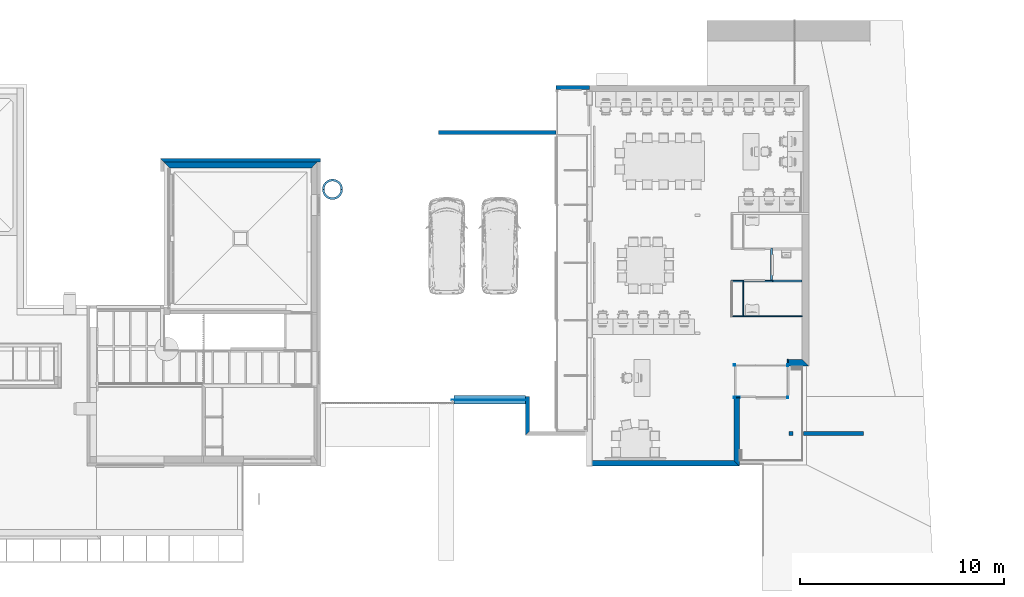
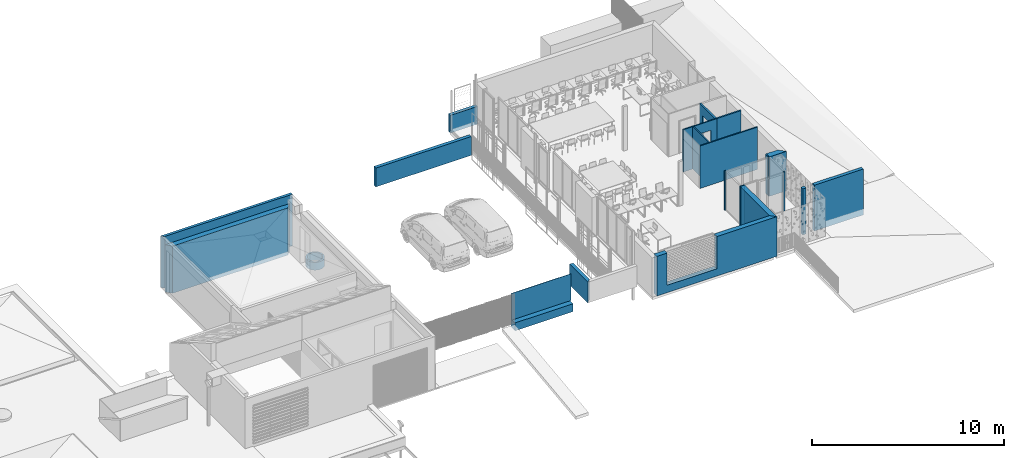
# One storey, part 17 of 51: 25 walls, 3 openings.
"""IFC2X3 building model written with IfcOpenShell, lengths in metres."""

from ifc_helpers import new_model, entity, si_unit, converted_unit, derived_unit, direction, frame, frame_2d, origin, origin_2d_with_axis, place, context, subcontext, project, spatial, polyline, circle_curve, parameter, trimmed, segment, composite_curve, rectangle, outline, extrude, material, layer, layer_set, layer_usage, type_object, element, save


model = new_model("IFC2X3")

# Units and contexts
model_context = context("Model", 3, precision=1e-05, world=origin(), true_north=direction((6.123031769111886e-17, 1.0)))
body_context = subcontext(model_context, "Body", "Model", "MODEL_VIEW")
ifc_project = project(units=[si_unit("LENGTHUNIT", "METRE"), si_unit("AREAUNIT", "SQUARE_METRE"), si_unit("VOLUMEUNIT", "CUBIC_METRE"), converted_unit("PLANEANGLEUNIT", "DEGREE", entity("IfcRatioMeasure", 0.017453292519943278), si_unit("PLANEANGLEUNIT", "RADIAN"), dimensions=[0, 0, 0, 0, 0, 0, 0]), si_unit("MASSUNIT", "GRAM", prefix="KILO"), derived_unit("MASSDENSITYUNIT", [(si_unit("MASSUNIT", "GRAM", prefix="KILO"), 1), (si_unit("LENGTHUNIT", "METRE"), -3)]), derived_unit("MOMENTOFINERTIAUNIT", [(si_unit("LENGTHUNIT", "METRE"), 4)]), si_unit("TIMEUNIT", "SECOND"), si_unit("FREQUENCYUNIT", "HERTZ"), si_unit("THERMODYNAMICTEMPERATUREUNIT", "DEGREE_CELSIUS"), derived_unit("THERMALTRANSMITTANCEUNIT", [(si_unit("MASSUNIT", "GRAM", prefix="KILO"), 1), (si_unit("THERMODYNAMICTEMPERATUREUNIT", "KELVIN"), -1), (si_unit("TIMEUNIT", "SECOND"), -3)]), derived_unit("THERMALCONDUCTANCEUNIT", [(si_unit("MASSUNIT", "GRAM", prefix="KILO"), 1), (si_unit("LENGTHUNIT", "METRE"), 1), (si_unit("THERMODYNAMICTEMPERATUREUNIT", "KELVIN"), -1), (si_unit("TIMEUNIT", "SECOND"), -3)]), derived_unit("VOLUMETRICFLOWRATEUNIT", [(si_unit("LENGTHUNIT", "METRE"), 3), (si_unit("TIMEUNIT", "SECOND"), -1)]), derived_unit("MASSFLOWRATEUNIT", [(si_unit("MASSUNIT", "GRAM", prefix="KILO"), 1), (si_unit("TIMEUNIT", "SECOND"), -1)]), derived_unit("ROTATIONALFREQUENCYUNIT", [(si_unit("TIMEUNIT", "SECOND"), -1)]), si_unit("ELECTRICCURRENTUNIT", "AMPERE"), si_unit("ELECTRICVOLTAGEUNIT", "VOLT"), si_unit("POWERUNIT", "WATT"), si_unit("FORCEUNIT", "NEWTON", prefix="KILO"), si_unit("ILLUMINANCEUNIT", "LUX"), si_unit("LUMINOUSFLUXUNIT", "LUMEN"), si_unit("LUMINOUSINTENSITYUNIT", "CANDELA"), derived_unit("USERDEFINED", [(si_unit("MASSUNIT", "GRAM", prefix="KILO"), -1), (si_unit("LENGTHUNIT", "METRE"), -2), (si_unit("TIMEUNIT", "SECOND"), 3), (si_unit("LUMINOUSFLUXUNIT", "LUMEN"), 1)]), derived_unit("USERDEFINED", [(si_unit("MASSUNIT", "GRAM", prefix="KILO"), 1), (si_unit("LENGTHUNIT", "METRE"), 3), (si_unit("TIMEUNIT", "SECOND"), -3), (si_unit("ELECTRICCURRENTUNIT", "AMPERE"), -2)]), derived_unit("USERDEFINED", [(si_unit("LENGTHUNIT", "METRE"), 2), (si_unit("TIMEUNIT", "SECOND"), -2)]), derived_unit("SOUNDPOWERUNIT", [(si_unit("MASSUNIT", "GRAM", prefix="KILO"), 1), (si_unit("LENGTHUNIT", "METRE"), 2), (si_unit("TIMEUNIT", "SECOND"), -3)]), derived_unit("SOUNDPRESSUREUNIT", [(si_unit("MASSUNIT", "GRAM", prefix="KILO"), 1), (si_unit("LENGTHUNIT", "METRE"), -1), (si_unit("TIMEUNIT", "SECOND"), -2)]), derived_unit("LINEARVELOCITYUNIT", [(si_unit("LENGTHUNIT", "METRE"), 1), (si_unit("TIMEUNIT", "SECOND"), -1)]), si_unit("PRESSUREUNIT", "PASCAL"), derived_unit("USERDEFINED", [(si_unit("LENGTHUNIT", "METRE"), -2), (si_unit("MASSUNIT", "GRAM", prefix="KILO"), 1), (si_unit("TIMEUNIT", "SECOND"), -2)]), derived_unit("LINEARFORCEUNIT", [(si_unit("MASSUNIT", "GRAM", prefix="KILO"), 1), (si_unit("LENGTHUNIT", "METRE"), 1), (si_unit("TIMEUNIT", "SECOND"), -2), (si_unit("LENGTHUNIT", "METRE"), -1)]), derived_unit("PLANARFORCEUNIT", [(si_unit("MASSUNIT", "GRAM", prefix="KILO"), 1), (si_unit("LENGTHUNIT", "METRE"), 1), (si_unit("TIMEUNIT", "SECOND"), -2), (si_unit("LENGTHUNIT", "METRE"), -2)]), derived_unit("SPECIFICHEATCAPACITYUNIT", [(si_unit("LENGTHUNIT", "METRE"), 2), (si_unit("TIMEUNIT", "SECOND"), -2), (si_unit("THERMODYNAMICTEMPERATUREUNIT", "KELVIN"), -1)]), derived_unit("VAPORPERMEABILITYUNIT", [(si_unit("TIMEUNIT", "SECOND"), 1), (si_unit("LENGTHUNIT", "METRE"), -1)]), derived_unit("DYNAMICVISCOSITYUNIT", [(si_unit("MASSUNIT", "GRAM", prefix="KILO"), 1), (si_unit("LENGTHUNIT", "METRE"), -1), (si_unit("TIMEUNIT", "SECOND"), -1)]), derived_unit("THERMALEXPANSIONCOEFFICIENTUNIT", [(si_unit("THERMODYNAMICTEMPERATUREUNIT", "KELVIN"), -1)])], contexts=[model_context])

# Site, building, storey
site_placement = place(None, origin())
site = spatial("IfcSite", under=ifc_project, at=site_placement, Name="Default", CompositionType="ELEMENT")
building_placement = place(site_placement, origin())
building = spatial("IfcBuilding", under=site, at=building_placement, CompositionType="ELEMENT")
storey_placement = place(building_placement, frame((0.0, 0.0, 3.06)))
storey = spatial("IfcBuildingStorey", under=building, at=storey_placement, Name="ÉTAGE", CompositionType="ELEMENT", Elevation=3.06)

# Walls
ifc_material_1 = material(Name="Appareillage - Pierre taillé")
ifc_layer_1 = layer(ifc_material_1, 0.31)
ifc_layer_set_1 = layer_set([ifc_layer_1], Name="Mur de base:Struct. - Pierre 310")
ifc_layer_usage_1 = layer_usage(ifc_layer_set_1, "AXIS2", "NEGATIVE", 0.155)
wall_type_1 = type_object("IfcWallType", Name="Mur de base:Struct. - Pierre 310", PredefinedType="STANDARD", material=ifc_layer_set_1)
wall_1_placement = place(storey_placement, frame((120.680752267, 22.342209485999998, -0.24000000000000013)))
element("IfcWallStandardCase", 1, at=wall_1_placement, inside=storey, type_object=wall_type_1, material=ifc_layer_usage_1, Name="MurExt-002", ObjectType="Mur de base:Struct. - Pierre 310", context=body_context, shape_type="SweptSolid", body=[
    extrude(outline(polyline([(7.230000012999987, -0.15499999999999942), (7.52000001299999, 0.15499999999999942), (0.0, 0.15499999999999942), (0.3000000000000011, -0.15499999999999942), (7.230000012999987, -0.15499999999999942)])), origin(), (0.0, 0.0, 1.0), 3.0000000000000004),
])
ifc_material_2 = material(Name="Enduit - Jaune nature")
ifc_layer_2 = layer(ifc_material_2, 0.02)
ifc_material_3 = material(Name="Isolation - Fibre de verre")
ifc_layer_3 = layer(ifc_material_3, 0.14)
ifc_layer_set_2 = layer_set([ifc_layer_2, ifc_layer_3], Name="Mur de base:ABA ITE 140 + enduit 160")
ifc_layer_usage_2 = layer_usage(ifc_layer_set_2, "AXIS2", "NEGATIVE", 0.08)
wall_type_2 = type_object("IfcWallType", Name="Mur de base:ABA ITE 140 + enduit 160", PredefinedType="STANDARD", material=ifc_layer_set_2)
wall_2_placement = place(storey_placement, frame((120.52075226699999, 22.577209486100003, 0.0)))
element("IfcWallStandardCase", 2, at=wall_2_placement, inside=storey, type_object=wall_type_2, material=ifc_layer_usage_2, Name="MurExt-003", ObjectType="Mur de base:ABA ITE 140 + enduit 160", context=body_context, shape_type="SweptSolid", body=[
    extrude(outline(polyline([(7.84000001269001, -0.07999999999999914), (7.84000001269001, 0.07999999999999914), (0.0, 0.07999999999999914), (0.15999999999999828, -0.07999999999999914), (7.84000001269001, -0.07999999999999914)])), origin(), (0.0, 0.0, 1.0), 3.289999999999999),
])
ifc_material_4 = material(Name="Béton - Parpaing (Blocs)")
ifc_layer_4 = layer(ifc_material_4, 0.2)
ifc_layer_set_3 = layer_set([ifc_layer_4], Name="Mur de base:Struct. - Parpaing béton 200")
ifc_layer_usage_3 = layer_usage(ifc_layer_set_3, "AXIS2", "NEGATIVE", 0.1)
wall_type_3 = type_object("IfcWallType", Name="Mur de base:Struct. - Parpaing béton 200", PredefinedType="STANDARD", material=ifc_layer_set_3)
wall_3_placement = place(storey_placement, frame((141.54075228, 26.137235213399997, 0.9899999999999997), z_axis=(0.0, 0.0, 1.0), x_axis=(-1.0, 0.0, 0.0)))
element("IfcWallStandardCase", 3, at=wall_3_placement, inside=storey, type_object=wall_type_3, material=ifc_layer_usage_3, Name="MurExt-021", ObjectType="Mur de base:Struct. - Parpaing béton 200", context=body_context, shape_type="SweptSolid", body=[
    extrude(rectangle(XDim=1.6399998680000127, YDim=0.19999999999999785, at=frame_2d((0.8199999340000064, 0.0), x_axis=(-1.0, 0.0))), origin(), (0.0, 0.0, 1.0), 1.1199999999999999),
])
wall_4_placement = place(storey_placement, frame((151.525752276, 9.18720952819, 0.789999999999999), z_axis=(0.0, 0.0, 1.0), x_axis=(-1.0, 0.0, 0.0)))
element("IfcWallStandardCase", 4, at=wall_4_placement, inside=storey, type_object=wall_type_3, material=ifc_layer_usage_3, Name="MurExt-021", ObjectType="Mur de base:Struct. - Parpaing béton 200", context=body_context, shape_type="SweptSolid", body=[
    extrude(rectangle(XDim=0.1999999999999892, YDim=0.2, at=frame_2d((0.0999999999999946, 0.0), x_axis=(-1.0, 0.0))), origin(), (0.0, 0.0, 1.0), 2.9199999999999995),
])
wall_5_placement = place(storey_placement, frame((138.50075227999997, 9.087209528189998, 0.9899999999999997), z_axis=(0.0, 0.0, 1.0), x_axis=(0.0, 1.0, 0.0)))
element("IfcWallStandardCase", 5, at=wall_5_placement, inside=storey, type_object=wall_type_3, material=ifc_layer_usage_3, Name="MurExt-021", ObjectType="Mur de base:Struct. - Parpaing béton 200", context=body_context, shape_type="SweptSolid", body=[
    extrude(outline(polyline([(1.9000000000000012, -0.10000000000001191), (1.9000000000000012, 0.0999999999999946), (0.0, 0.0999999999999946), (0.20000000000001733, -0.10000000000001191), (1.9000000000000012, -0.10000000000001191)])), origin(), (0.0, 0.0, 1.0), 1.3199999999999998),
])
wall_6_placement = place(storey_placement, frame((139.90075236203, 23.937209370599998, 0.9099999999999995), z_axis=(0.0, 0.0, 1.0), x_axis=(-1.0, 0.0, 0.0)))
element("IfcWallStandardCase", 6, at=wall_6_placement, inside=storey, type_object=wall_type_3, material=ifc_layer_usage_3, Name="MurExt-021", ObjectType="Mur de base:Struct. - Parpaing béton 200", context=body_context, shape_type="SweptSolid", body=[
    extrude(rectangle(XDim=5.7500000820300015, YDim=0.19999999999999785, at=frame_2d((2.8750000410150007, 0.0), x_axis=(-1.0, 0.0))), origin(), (0.0, 0.0, 1.0), 1.2000000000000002),
])
wall_7_placement = place(storey_placement, frame((154.97575227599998, 9.18720952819, 0.789999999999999), z_axis=(0.0, 0.0, 1.0), x_axis=(-1.0, 0.0, 0.0)))
element("IfcWallStandardCase", 7, at=wall_7_placement, inside=storey, type_object=wall_type_3, material=ifc_layer_usage_3, Name="MurExt-021", ObjectType="Mur de base:Struct. - Parpaing béton 200", context=body_context, shape_type="SweptSolid", body=[
    extrude(rectangle(XDim=2.9499999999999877, YDim=0.2, at=frame_2d((1.4749999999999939, 0.0), x_axis=(-1.0, 0.0))), origin(), (0.0, 0.0, 1.0), 2.9199999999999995),
])
ifc_layer_5 = layer(ifc_material_1, 0.1)
ifc_layer_set_4 = layer_set([ifc_layer_5], Name="Mur de base:Struct. - Pierre 100")
ifc_layer_usage_4 = layer_usage(ifc_layer_set_4, "AXIS2", "POSITIVE", -0.05)
wall_type_4 = type_object("IfcWallType", Name="Mur de base:Struct. - Pierre 100", PredefinedType="STANDARD", material=ifc_layer_set_4)
wall_8_placement = place(storey_placement, frame((128.50075227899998, 21.152209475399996, -0.5900000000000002)))
element("IfcWallStandardCase", 8, at=wall_8_placement, inside=storey, type_object=wall_type_4, material=ifc_layer_usage_4, Name="MurExt-003", ObjectType="Mur de base:Struct. - Pierre 100", context=body_context, shape_type="SweptSolid", body=[
    extrude(outline(composite_curve([segment(trimmed(circle_curve(frame_2d((0.4500000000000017, 0.0), x_axis=(1.0, 0.0)), 0.49999999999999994), [parameter(0.0)], [parameter(180.00000000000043)], True, "PARAMETER"), True, "CONTINUOUS"), segment(polyline([(-0.050000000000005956, 0.0), (0.050000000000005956, 0.0)]), True, "CONTINUOUS"), segment(trimmed(circle_curve(frame_2d((0.4500000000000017, 0.0), x_axis=(1.0, 0.0)), 0.39999999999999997), [parameter(0.0)], [parameter(180.00000000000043)], True, "PARAMETER"), False, "CONTINUOUS"), segment(polyline([(0.8499999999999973, 0.0), (0.9500000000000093, 0.0)]), True, "CONTINUOUS")], self_intersect=False)), origin(), (0.0, 0.0, 1.0), 0.5),
])
wall_9_placement = place(storey_placement, frame((129.400752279, 21.152209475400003, -0.5900000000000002), z_axis=(0.0, 0.0, 1.0), x_axis=(-1.0, 0.0, 0.0)))
element("IfcWallStandardCase", 9, at=wall_9_placement, inside=storey, type_object=wall_type_4, material=ifc_layer_usage_4, Name="MurExt-004", ObjectType="Mur de base:Struct. - Pierre 100", context=body_context, shape_type="SweptSolid", body=[
    extrude(outline(composite_curve([segment(trimmed(circle_curve(frame_2d((0.4500000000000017, 0.0), x_axis=(1.0, 0.0)), 0.49999999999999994), [parameter(0.0)], [parameter(180.00000000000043)], True, "PARAMETER"), True, "CONTINUOUS"), segment(polyline([(-0.050000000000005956, 0.0), (0.050000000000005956, 0.0)]), True, "CONTINUOUS"), segment(trimmed(circle_curve(frame_2d((0.4500000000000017, 0.0), x_axis=(1.0, 0.0)), 0.39999999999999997), [parameter(0.0)], [parameter(180.00000000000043)], True, "PARAMETER"), False, "CONTINUOUS"), segment(polyline([(0.8499999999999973, 0.0), (0.9500000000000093, 0.0)]), True, "CONTINUOUS")], self_intersect=False)), origin(), (0.0, 0.0, 1.0), 0.5),
])
ifc_material_5 = material(Name="Plâtre - Plaques de plâtre")
ifc_layer_6 = layer(ifc_material_5, 0.013)
ifc_layer_7 = layer(ifc_material_3, 0.044)
ifc_layer_8 = layer(ifc_material_5, 0.013)
ifc_layer_set_5 = layer_set([ifc_layer_6, ifc_layer_7, ifc_layer_8], Name="Mur de base:ABA cloison 7cm 70")
ifc_layer_usage_5 = layer_usage(ifc_layer_set_5, "AXIS2", "NEGATIVE", 0.034999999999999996)
wall_type_5 = type_object("IfcWallType", Name="Mur de base:ABA cloison 7cm 70", PredefinedType="STANDARD", material=ifc_layer_set_5)
wall_10_placement = place(storey_placement, frame((151.97075228, 14.9322094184, 1.21), z_axis=(0.0, 0.0, 1.0), x_axis=(-1.0, 0.0, 0.0)))
element("IfcWallStandardCase", 10, at=wall_10_placement, inside=storey, type_object=wall_type_5, material=ifc_layer_usage_5, Name="MurExt-012", ObjectType="Mur de base:ABA cloison 7cm 70", context=body_context, shape_type="SweptSolid", body=[
    extrude(outline(polyline([(3.4300000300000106, -0.03499999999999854), (3.4800000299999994, 0.035000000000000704), (0.0, 0.035000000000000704), (0.0, -0.03499999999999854), (2.850000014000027, -0.03499999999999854), (2.9200000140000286, -0.03499999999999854), (3.4300000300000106, -0.03499999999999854)])), origin(), (0.0, 0.0, 1.0), 2.7000000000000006),
])
wall_11_placement = place(storey_placement, frame((149.08575226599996, 14.967209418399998, 1.21), z_axis=(0.0, 0.0, 1.0), x_axis=(0.0, 1.0, 0.0)))
element("IfcWallStandardCase", 11, at=wall_11_placement, inside=storey, type_object=wall_type_5, material=ifc_layer_usage_5, Name="MurExt-013", ObjectType="Mur de base:ABA cloison 7cm 70", context=body_context, shape_type="SweptSolid", body=[
    extrude(rectangle(XDim=1.6500000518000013, YDim=0.06999999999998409, at=frame_2d((0.8250000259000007, 0.0), x_axis=(-1.0, 0.0))), origin(), (0.0, 0.0, 1.0), 2.7000000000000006),
])

# Wall, opening
wall_12_placement = place(storey_placement, frame((150.52075226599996, 16.6522094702, 1.21), z_axis=(0.0, 0.0, 1.0), x_axis=(-1.0, 0.0, 0.0)))
wall_12 = element("IfcWallStandardCase", 12, at=wall_12_placement, inside=storey, type_object=wall_type_5, material=ifc_layer_usage_5, Name="MurExt-014", ObjectType="Mur de base:ABA cloison 7cm 70", context=body_context, shape_type="SweptSolid", body=[
    extrude(rectangle(XDim=2.030000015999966, YDim=0.07000000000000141, at=frame_2d((1.015000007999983, 0.0), x_axis=(-1.0, 0.0))), origin(), (0.0, 0.0, 1.0), 2.7000000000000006),
])
opening_1_placement = place(wall_12_placement, frame((150.52075226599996, 16.6522094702, -1.2099999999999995), z_axis=(0.0, 0.0, 1.0), x_axis=(-1.0, 0.0, 0.0)))
element("IfcOpeningElement", 13, at=opening_1_placement, cuts=wall_12, Name="MurExt-014", ObjectType="Opening", context=body_context, shape_type="SweptSolid", body=[
    extrude(rectangle(XDim=2.089999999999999, YDim=1.0300000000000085, at=origin_2d_with_axis()), frame((149.63575226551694, 16.7236094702, 2.254999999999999), z_axis=(0.0, -1.0, 0.0), x_axis=(0.0, 0.0, 1.0)), (0.0, 0.0, 1.0), 0.14279999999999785),
])

# Walls
wall_13_placement = place(storey_placement, frame((148.69075228, 10.9522095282, 1.2099999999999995)))
element("IfcWallStandardCase", 14, at=wall_13_placement, inside=storey, type_object=wall_type_5, material=ifc_layer_usage_5, Name="MurExt-018", ObjectType="Mur de base:ABA cloison 7cm 70", context=body_context, shape_type="SweptSolid", body=[
    extrude(rectangle(XDim=0.21000003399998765, YDim=0.07000000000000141, at=frame_2d((0.10500001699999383, 0.0), x_axis=(-1.0, 0.0))), origin(), (0.0, 0.0, 1.0), 2.499999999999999),
])
ifc_material_6 = material(Name="Métal - Fer")
ifc_layer_9 = layer(ifc_material_6, 0.037)
ifc_material_7 = material(Name="Air - Vide d'air")
ifc_layer_10 = layer(ifc_material_7, 0.035)
ifc_layer_11 = layer(ifc_material_3, 0.04)
ifc_layer_12 = layer(ifc_material_3, 0.145)
ifc_material_8 = material(Name="Bois - Panneaux de particules")
ifc_layer_13 = layer(ifc_material_8, 0.012)
ifc_layer_14 = layer(ifc_material_7, 0.048)
ifc_layer_15 = layer(ifc_material_5, 0.013)
ifc_layer_set_6 = layer_set([ifc_layer_9, ifc_layer_10, ifc_layer_11, ifc_layer_12, ifc_layer_13, ifc_layer_14, ifc_layer_15], Name="Mur de base:ABA MOB ITE bardage 330")
ifc_layer_usage_6 = layer_usage(ifc_layer_set_6, "AXIS2", "NEGATIVE", 0.165)
wall_type_6 = type_object("IfcWallType", Name="Mur de base:ABA MOB ITE bardage 330", PredefinedType="STANDARD", material=ifc_layer_set_6)
wall_14_placement = place(storey_placement, frame((152.30075228, 12.6522094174, 1.189999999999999), z_axis=(0.0, 0.0, 1.0), x_axis=(-1.0, 0.0, 0.0)))
element("IfcWallStandardCase", 15, at=wall_14_placement, inside=storey, type_object=wall_type_6, material=ifc_layer_usage_6, Name="MurExt-020", ObjectType="Mur de base:ABA MOB ITE bardage 330", context=body_context, shape_type="SweptSolid", body=[
    extrude(outline(polyline([(1.0, -0.16500000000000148), (1.0, 0.16499999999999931), (0.0, 0.16499999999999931), (0.3299999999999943, -0.16500000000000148), (1.0, -0.16500000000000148)])), origin(), (0.0, 0.0, 1.0), 2.5199999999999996),
])
ifc_layer_16 = layer(ifc_material_5, 0.013)
ifc_layer_17 = layer(ifc_material_3, 0.056999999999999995)
ifc_layer_set_7 = layer_set([ifc_layer_16, ifc_layer_17], Name="Mur de base:ABA doublage 7cm 70")
ifc_layer_usage_7 = layer_usage(ifc_layer_set_7, "AXIS2", "NEGATIVE", 0.034999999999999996)
wall_type_7 = type_object("IfcWallType", Name="Mur de base:ABA doublage 7cm 70", PredefinedType="STANDARD", material=ifc_layer_set_7)
wall_15_placement = place(storey_placement, frame((151.26575228, 12.5872094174, 1.2099999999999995), z_axis=(0.0, 0.0, 1.0), x_axis=(0.0, 1.0, 0.0)))
element("IfcWallStandardCase", 16, at=wall_15_placement, inside=storey, type_object=wall_type_7, material=ifc_layer_usage_7, Name="MurExt-017", ObjectType="Mur de base:ABA doublage 7cm 70", context=body_context, shape_type="SweptSolid", body=[
    extrude(rectangle(XDim=0.23000020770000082, YDim=0.06999999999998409, at=frame_2d((0.11500010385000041, 0.0), x_axis=(-1.0, 0.0))), origin(), (0.0, 0.0, 1.0), 2.499999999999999),
])

# Wall, opening
ifc_layer_18 = layer(ifc_material_2, 0.022)
ifc_layer_19 = layer(ifc_material_3, 0.04)
ifc_layer_20 = layer(ifc_material_3, 0.145)
ifc_layer_21 = layer(ifc_material_8, 0.012)
ifc_layer_22 = layer(ifc_material_7, 0.048)
ifc_layer_23 = layer(ifc_material_5, 0.013)
ifc_layer_set_8 = layer_set([ifc_layer_18, ifc_layer_19, ifc_layer_20, ifc_layer_21, ifc_layer_22, ifc_layer_23], Name="Mur de base:ABA MOB ITE enduit 280")
ifc_layer_usage_8 = layer_usage(ifc_layer_set_8, "AXIS2", "NEGATIVE", 0.14)
wall_type_8 = type_object("IfcWallType", Name="Mur de base:ABA MOB ITE enduit 280", PredefinedType="STANDARD", material=ifc_layer_set_8)
wall_16_placement = place(storey_placement, frame((148.900752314, 7.7272094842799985, 1.189999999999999), z_axis=(0.0, 0.0, 1.0), x_axis=(-1.0, 0.0, 0.0)))
wall_16 = element("IfcWallStandardCase", 17, at=wall_16_placement, inside=storey, type_object=wall_type_8, material=ifc_layer_usage_8, Name="MurExt-018", ObjectType="Mur de base:ABA MOB ITE enduit 280", context=body_context, shape_type="SweptSolid", body=[
    extrude(outline(polyline([(7.220000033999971, -0.14000000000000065), (7.220000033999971, 0.13999999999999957), (0.0, 0.13999999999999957), (0.28000000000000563, -0.14000000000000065), (7.220000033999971, -0.14000000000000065)])), origin(), (0.0, 0.0, 1.0), 2.5199999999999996),
])
opening_2_placement = place(wall_16_placement, frame((148.900752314, 7.7272094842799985, -1.189999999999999), z_axis=(0.0, 0.0, 1.0), x_axis=(-1.0, 0.0, 0.0)))
element("IfcOpeningElement", 18, at=opening_2_placement, cuts=wall_16, Name="MurExt-018", ObjectType="Opening", context=body_context, shape_type="SweptSolid", body=[
    extrude(rectangle(XDim=2.05, YDim=2.999999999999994, at=frame_2d((0.0, -8.659739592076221e-15), x_axis=(1.0, 0.0))), frame((143.80075227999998, 8.010009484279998, 2.6849999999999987), z_axis=(0.0, -1.0, 0.0), x_axis=(0.0, 0.0, -1.0)), (0.0, 0.0, 1.0), 0.5655999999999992),
])

# Wall
wall_17_placement = place(storey_placement, frame((148.76075231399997, 10.9172095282, 1.189999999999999), z_axis=(0.0, 0.0, 1.0), x_axis=(0.0, -1.0, 0.0)))
element("IfcWallStandardCase", 19, at=wall_17_placement, inside=storey, type_object=wall_type_8, material=ifc_layer_usage_8, Name="MurExt-019", ObjectType="Mur de base:ABA MOB ITE enduit 280", context=body_context, shape_type="SweptSolid", body=[
    extrude(outline(polyline([(3.050000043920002, -0.14000000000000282), (3.3300000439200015, 0.14000000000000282), (0.0, 0.14000000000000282), (0.0, -0.14000000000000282), (3.050000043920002, -0.14000000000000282)])), origin(), (0.0, 0.0, 1.0), 2.5199999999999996),
])

# Wall, opening
ifc_layer_24 = layer(ifc_material_5, 0.013)
ifc_layer_25 = layer(ifc_material_5, 0.013)
ifc_layer_26 = layer(ifc_material_3, 0.048)
ifc_layer_27 = layer(ifc_material_5, 0.013)
ifc_layer_28 = layer(ifc_material_5, 0.013)
ifc_layer_set_9 = layer_set([ifc_layer_24, ifc_layer_25, ifc_layer_26, ifc_layer_27, ifc_layer_28], Name="Mur de base:ABA cloison 10cm 100")
ifc_layer_usage_9 = layer_usage(ifc_layer_set_9, "AXIS2", "NEGATIVE", 0.05)
wall_type_9 = type_object("IfcWallType", Name="Mur de base:ABA cloison 10cm 100", PredefinedType="STANDARD", material=ifc_layer_set_9)
wall_18_placement = place(storey_placement, frame((150.47075226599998, 16.6872094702, 1.21), z_axis=(0.0, 0.0, 1.0), x_axis=(0.0, 1.0, 0.0)))
wall_18 = element("IfcWallStandardCase", 20, at=wall_18_placement, inside=storey, type_object=wall_type_9, material=ifc_layer_usage_9, Name="MurExt-015", ObjectType="Mur de base:ABA cloison 10cm 100", context=body_context, shape_type="SweptSolid", body=[
    extrude(rectangle(XDim=1.5899999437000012, YDim=0.10000000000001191, at=frame_2d((0.7949999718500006, 0.0), x_axis=(-1.0, 0.0))), origin(), (0.0, 0.0, 1.0), 2.7000000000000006),
])
opening_3_placement = place(wall_18_placement, frame((-16.6872094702, 150.47075226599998, -1.2099999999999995), z_axis=(0.0, 0.0, 1.0), x_axis=(0.0, -1.0, 0.0)))
element("IfcOpeningElement", 21, at=opening_3_placement, cuts=wall_18, Name="MurExt-015", ObjectType="Opening", context=body_context, shape_type="SweptSolid", body=[
    extrude(rectangle(XDim=2.09, YDim=1.0299999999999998, at=frame_2d((0.0, 3.3306690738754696e-16), x_axis=(0.0, 1.0))), frame((150.57275226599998, 17.447209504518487, 2.254999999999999), z_axis=(-1.0, 0.0, 0.0), x_axis=(0.0, 1.0, 0.0)), (0.0, 0.0, 1.0), 0.20399999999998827),
])

# Walls
wall_19_placement = place(storey_placement, frame((151.97075228, 16.667209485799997, 1.21), z_axis=(0.0, 0.0, 1.0), x_axis=(-1.0, 0.0, 0.0)))
element("IfcWallStandardCase", 22, at=wall_19_placement, inside=storey, type_object=wall_type_9, material=ifc_layer_usage_9, Name="MurExt-014", ObjectType="Mur de base:ABA cloison 10cm 100", context=body_context, shape_type="SweptSolid", body=[
    extrude(rectangle(XDim=1.4500000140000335, YDim=0.09999999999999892, at=frame_2d((0.7250000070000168, 0.0), x_axis=(-1.0, 0.0))), origin(), (0.0, 0.0, 1.0), 2.7000000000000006),
])
ifc_layer_29 = layer(ifc_material_6, 0.02)
ifc_layer_set_10 = layer_set([ifc_layer_29], Name="Mur de base:Métal - Fer 20")
ifc_layer_usage_10 = layer_usage(ifc_layer_set_10, "AXIS2", "NEGATIVE", 0.01)
wall_type_10 = type_object("IfcWallType", Name="Mur de base:Métal - Fer 20", PredefinedType="STANDARD", material=ifc_layer_set_10)
wall_20_placement = place(storey_placement, frame((134.790752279, 10.832210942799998, 0.10000000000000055)))
element("IfcWallStandardCase", 23, at=wall_20_placement, inside=storey, type_object=wall_type_10, material=ifc_layer_usage_10, Name="MurExt-026", ObjectType="Mur de base:Métal - Fer 20", context=body_context, shape_type="SweptSolid", body=[
    extrude(rectangle(XDim=3.599999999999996, YDim=0.019999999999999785, at=frame_2d((1.799999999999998, 0.0), x_axis=(-1.0, 0.0))), origin(), (0.0, 0.0, 1.0), 1.699999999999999),
])
ifc_layer_30 = layer(ifc_material_6, 0.07)
ifc_layer_set_11 = layer_set([ifc_layer_30], Name="Mur de base:Métal - Fer 70")
wall_type_11 = type_object("IfcWallType", Name="Mur de base:Métal - Fer 70", PredefinedType="STANDARD", material=ifc_layer_set_11)
wall_21_placement = place(storey_placement, frame((151.30075227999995, 12.5522094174, 1.2099999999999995), z_axis=(0.0, 0.0, 1.0), x_axis=(-1.0, 0.0, 0.0)))
element("IfcWallStandardCase", 24, at=wall_21_placement, inside=storey, type_object=wall_type_11, Name="MurExt-017", ObjectType="Mur de base:Métal - Fer 70", context=body_context, shape_type="SweptSolid", body=[
    extrude(rectangle(XDim=0.06999999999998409, YDim=0.06999999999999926, at=frame_2d((-0.006999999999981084, -0.00013999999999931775), x_axis=(1.0, 0.0))), frame((0.04199999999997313, 0.00014000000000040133, 0.0)), (0.0, 0.0, 1.0), 2.499999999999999),
    extrude(outline(polyline([(-0.055808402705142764, -0.018437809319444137), (0.0431865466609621, -0.01843780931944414), (0.018932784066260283, 0.005815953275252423), (-0.006310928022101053, 0.031059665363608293), (-0.055808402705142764, -0.018437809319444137)])), frame((2.6274999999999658, -0.008575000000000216, 0.0), z_axis=(0.0, 0.0, 1.0), x_axis=(-0.707106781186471, 0.7071067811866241, 0.0)), (0.0, 0.0, 1.0), 2.499999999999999),
])
wall_22_placement = place(storey_placement, frame((148.65575228, 12.58720941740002, 1.2099999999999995), z_axis=(0.0, 0.0, 1.0), x_axis=(0.0, -1.0, 0.0)))
element("IfcWallStandardCase", 25, at=wall_22_placement, inside=storey, type_object=wall_type_11, Name="MurExt-018", ObjectType="Mur de base:Métal - Fer 70", context=body_context, shape_type="SweptSolid", body=[
    extrude(outline(polyline([(-0.05249999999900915, -0.026424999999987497), (0.017499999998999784, -0.026424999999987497), (0.017499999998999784, 0.009275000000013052), (0.017499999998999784, 0.043575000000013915), (-0.05249999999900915, -0.026424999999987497)])), frame((0.05249999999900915, -0.008575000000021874, 0.0)), (0.0, 0.0, 1.0), 2.499999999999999),
    extrude(rectangle(XDim=0.06999999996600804, YDim=0.07000000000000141, at=frame_2d((-0.0069999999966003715, 0.0001400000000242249), x_axis=(1.0, 0.0))), frame((1.6279998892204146, 0.00014000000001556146, 0.0), z_axis=(0.0, 0.0, 1.0), x_axis=(-1.0, 0.0, 0.0)), (0.0, 0.0, 1.0), 2.499999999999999),
])
wall_23_placement = place(storey_placement, frame((148.69075228, 10.9522095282, 1.2099999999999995)))
element("IfcWallStandardCase", 26, at=wall_23_placement, inside=storey, type_object=wall_type_11, Name="MurExt-019", ObjectType="Mur de base:Métal - Fer 70", context=body_context, shape_type="SweptSolid", body=[
    extrude(rectangle(XDim=0.21000003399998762, YDim=0.06999999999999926, at=frame_2d((-0.021000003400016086, -0.0001400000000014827), x_axis=(1.0, 0.0))), frame((0.1260000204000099, 0.00014000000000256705, 0.0)), (0.0, 0.0, 1.0), 2.499999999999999),
    extrude(outline(polyline([(-0.05556089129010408, -0.018685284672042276), (0.043434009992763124, -0.018685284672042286), (0.01819032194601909, 0.006558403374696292), (-0.006063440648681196, 0.030812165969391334), (-0.05556089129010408, -0.018685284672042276)])), frame((2.557500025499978, -0.008925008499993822, 0.0), z_axis=(0.0, 0.0, 1.0), x_axis=(-0.707106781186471, 0.7071067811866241, 0.0)), (0.0, 0.0, 1.0), 2.499999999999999),
])
wall_24_placement = place(storey_placement, frame((151.26575228, 10.917209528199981, 1.2099999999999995), z_axis=(0.0, 0.0, 1.0), x_axis=(0.0, 1.0, 0.0)))
element("IfcWallStandardCase", 27, at=wall_24_placement, inside=storey, type_object=wall_type_11, Name="MurExt-020", ObjectType="Mur de base:Métal - Fer 70", context=body_context, shape_type="SweptSolid", body=[
    extrude(outline(polyline([(-0.05249999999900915, -0.026074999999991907), (0.017499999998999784, -0.026074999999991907), (0.017499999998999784, 0.008225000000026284), (0.017499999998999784, 0.043925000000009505), (-0.05249999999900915, -0.026074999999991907)])), frame((0.05249999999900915, -0.008925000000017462, 0.0)), (0.0, 0.0, 1.0), 2.499999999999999),
    extrude(rectangle(XDim=0.029999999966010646, YDim=0.07000000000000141, at=frame_2d((-0.0029999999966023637, -0.00013999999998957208), x_axis=(1.0, 0.0))), frame((1.5819998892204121, -0.00013999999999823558, 0.0), z_axis=(0.0, 0.0, 1.0), x_axis=(-1.0, 0.0, 0.0)), (0.0, 0.0, 1.0), 2.499999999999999),
])
ifc_layer_31 = layer(ifc_material_4, 0.4)
ifc_layer_set_12 = layer_set([ifc_layer_31], Name="Mur de base:Struct. - Parpaing béton 400")
ifc_layer_usage_11 = layer_usage(ifc_layer_set_12, "AXIS2", "NEGATIVE", 0.2)
wall_type_12 = type_object("IfcWallType", Name="Mur de base:Struct. - Parpaing béton 400", PredefinedType="STANDARD", material=ifc_layer_set_12)
wall_25_placement = place(storey_placement, frame((138.40075227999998, 10.837209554, -0.5), z_axis=(0.0, 0.0, 1.0), x_axis=(-1.0, 0.0, 0.0)))
element("IfcWallStandardCase", 28, at=wall_25_placement, inside=storey, type_object=wall_type_12, material=ifc_layer_usage_11, Name="MurExt-021", ObjectType="Mur de base:Struct. - Parpaing béton 400", context=body_context, shape_type="SweptSolid", body=[
    extrude(rectangle(XDim=3.500000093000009, YDim=0.4, at=frame_2d((1.7500000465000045, 0.0), x_axis=(-1.0, 0.0))), origin(), (0.0, 0.0, 1.0), 0.5),
])

save(model, "model.ifc")
